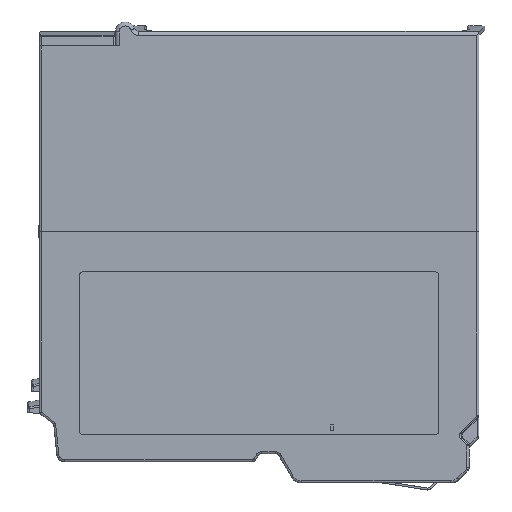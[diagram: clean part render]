
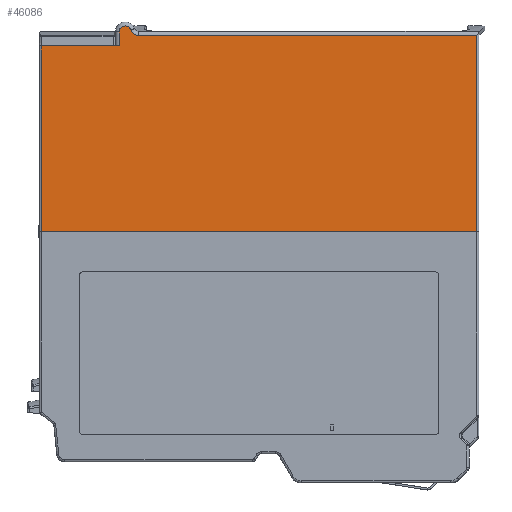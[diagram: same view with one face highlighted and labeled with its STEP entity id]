
A CAD part, left-side view. The second image highlights one B-rep face of the part: STEP entity #46086.
In plain terms, the highlighted planar face has unit normal (-1, 0, 0).
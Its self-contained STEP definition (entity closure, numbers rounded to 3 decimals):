
#5318 = AXIS2_PLACEMENT_3D ( 'NONE', #97744, #97745, #97746 ) ;
#5606 = VECTOR ( 'NONE', #88882, 1000. ) ;
#5612 = CIRCLE ( 'NONE', #5615, 1.5 ) ;
#5615 = AXIS2_PLACEMENT_3D ( 'NONE', #89019, #89021, #89023 ) ;
#5618 = VECTOR ( 'NONE', #89393, 1000. ) ;
#5629 = VECTOR ( 'NONE', #89358, 1000. ) ;
#8653 = VERTEX_POINT ( 'NONE', #58660 ) ;
#8827 = VERTEX_POINT ( 'NONE', #58913 ) ;
#8873 = VERTEX_POINT ( 'NONE', #59582 ) ;
#8876 = VERTEX_POINT ( 'NONE', #59579 ) ;
#8879 = VERTEX_POINT ( 'NONE', #59590 ) ;
#9542 = VERTEX_POINT ( 'NONE', #48908 ) ;
#9547 = VERTEX_POINT ( 'NONE', #48949 ) ;
#9555 = VERTEX_POINT ( 'NONE', #48999 ) ;
#11471 = EDGE_LOOP ( 'NONE', ( #14460, #15148, #14130, #14450, #15163, #14555, #14586, #14456 ) ) ;
#14130 = ORIENTED_EDGE ( 'NONE', *, *, #61418, .T. ) ;
#14450 = ORIENTED_EDGE ( 'NONE', *, *, #46258, .T. ) ;
#14456 = ORIENTED_EDGE ( 'NONE', *, *, #46288, .T. ) ;
#14460 = ORIENTED_EDGE ( 'NONE', *, *, #46293, .T. ) ;
#14555 = ORIENTED_EDGE ( 'NONE', *, *, #61412, .F. ) ;
#14586 = ORIENTED_EDGE ( 'NONE', *, *, #61579, .T. ) ;
#15148 = ORIENTED_EDGE ( 'NONE', *, *, #46240, .T. ) ;
#15163 = ORIENTED_EDGE ( 'NONE', *, *, #61446, .T. ) ;
#18114 = LINE ( 'NONE', #18115, #70240 ) ;
#18115 = CARTESIAN_POINT ( 'NONE',  ( -41.686, 64.64, 20.491 ) ) ;
#18116 = DIRECTION ( 'NONE',  ( 0., -1., 0. ) ) ;
#18124 = CARTESIAN_POINT ( 'NONE',  ( -41.686, 39.829, 23.157 ) ) ;
#18125 = CARTESIAN_POINT ( 'NONE',  ( -41.686, 40.038, 23.157 ) ) ;
#18130 = CARTESIAN_POINT ( 'NONE',  ( -41.686, 40.241, 23.189 ) ) ;
#18131 = CARTESIAN_POINT ( 'NONE',  ( -41.686, 40.636, 23.316 ) ) ;
#18132 = CARTESIAN_POINT ( 'NONE',  ( -41.686, 40.821, 23.41 ) ) ;
#18133 = CARTESIAN_POINT ( 'NONE',  ( -41.686, 41.327, 23.769 ) ) ;
#18134 = CARTESIAN_POINT ( 'NONE',  ( -41.686, 41.588, 24.112 ) ) ;
#18135 = CARTESIAN_POINT ( 'NONE',  ( -41.686, 41.73, 24.503 ) ) ;
#18193 = LINE ( 'NONE', #18194, #70262 ) ;
#18194 = CARTESIAN_POINT ( 'NONE',  ( -41.686, 44.64, 23.991 ) ) ;
#18195 = DIRECTION ( 'NONE',  ( 0., 0., -1. ) ) ;
#18531 = LINE ( 'NONE', #18538, #70323 ) ;
#18538 = CARTESIAN_POINT ( 'NONE',  ( -41.686, 64.14, 23.991 ) ) ;
#18539 = DIRECTION ( 'NONE',  ( 0., 0., -1. ) ) ;
#46086 = ADVANCED_FACE ( 'NONE', ( #97730 ), #97731, .F. ) ;
#46240 = EDGE_CURVE ( 'NONE', #9547, #8827, #88879, .T. ) ;
#46258 = EDGE_CURVE ( 'NONE', #9542, #8873, #5612, .T. ) ;
#46288 = EDGE_CURVE ( 'NONE', #8879, #8653, #89354, .T. ) ;
#46293 = EDGE_CURVE ( 'NONE', #8653, #9547, #89381, .T. ) ;
#48908 = CARTESIAN_POINT ( 'NONE',  ( -41.686, 41.73, 24.503 ) ) ;
#48949 = CARTESIAN_POINT ( 'NONE',  ( -41.686, -44.86, 23.157 ) ) ;
#48999 = CARTESIAN_POINT ( 'NONE',  ( -41.686, 44.64, 20.491 ) ) ;
#58660 = CARTESIAN_POINT ( 'NONE',  ( -41.686, -44.86, -26.009 ) ) ;
#58913 = CARTESIAN_POINT ( 'NONE',  ( -41.686, 39.829, 23.157 ) ) ;
#59579 = CARTESIAN_POINT ( 'NONE',  ( -41.686, 64.14, 20.491 ) ) ;
#59582 = CARTESIAN_POINT ( 'NONE',  ( -41.686, 44.64, 23.991 ) ) ;
#59590 = CARTESIAN_POINT ( 'NONE',  ( -41.686, 64.14, -26.009 ) ) ;
#59850 = B_SPLINE_CURVE_WITH_KNOTS ( 'NONE', 3,
 ( #18124, #18125, #18130, #18131, #18132, #18133, #18134, #18135 ),
 .UNSPECIFIED., .F., .F.,
 ( 4, 2, 2, 4 ),
 ( 0., 0.001, 0.001, 0.002 ),
 .UNSPECIFIED. ) ;
#61412 = EDGE_CURVE ( 'NONE', #8876, #9555, #18114, .T. ) ;
#61418 = EDGE_CURVE ( 'NONE', #8827, #9542, #59850, .T. ) ;
#61446 = EDGE_CURVE ( 'NONE', #8873, #9555, #18193, .T. ) ;
#61579 = EDGE_CURVE ( 'NONE', #8876, #8879, #18531, .T. ) ;
#70240 = VECTOR ( 'NONE', #18116, 1000. ) ;
#70262 = VECTOR ( 'NONE', #18195, 1000. ) ;
#70323 = VECTOR ( 'NONE', #18539, 1000. ) ;
#88879 = LINE ( 'NONE', #88881, #5606 ) ;
#88881 = CARTESIAN_POINT ( 'NONE',  ( -41.686, 500009.64, 23.157 ) ) ;
#88882 = DIRECTION ( 'NONE',  ( 0., 1., 0. ) ) ;
#89019 = CARTESIAN_POINT ( 'NONE',  ( -41.686, 43.14, 23.991 ) ) ;
#89021 = DIRECTION ( 'NONE',  ( -1., 0., 0. ) ) ;
#89023 = DIRECTION ( 'NONE',  ( 0., 0., -1. ) ) ;
#89354 = LINE ( 'NONE', #89357, #5629 ) ;
#89357 = CARTESIAN_POINT ( 'NONE',  ( -41.686, -45.36, -26.009 ) ) ;
#89358 = DIRECTION ( 'NONE',  ( 0., -1., 0. ) ) ;
#89381 = LINE ( 'NONE', #89389, #5618 ) ;
#89389 = CARTESIAN_POINT ( 'NONE',  ( -41.686, -44.86, 23.991 ) ) ;
#89393 = DIRECTION ( 'NONE',  ( 0., 0., 1. ) ) ;
#97730 = FACE_OUTER_BOUND ( 'NONE', #11471, .T. ) ;
#97731 = PLANE ( 'NONE',  #5318 ) ;
#97744 = CARTESIAN_POINT ( 'NONE',  ( -41.686, -45.36, 23.991 ) ) ;
#97745 = DIRECTION ( 'NONE',  ( 1., 0., 0. ) ) ;
#97746 = DIRECTION ( 'NONE',  ( 0., 0., -1. ) ) ;
